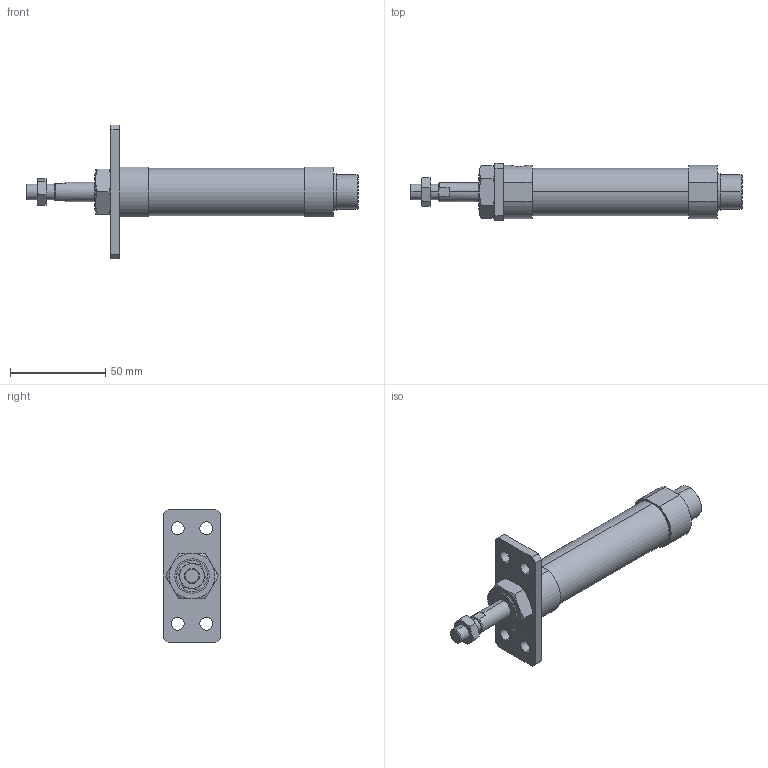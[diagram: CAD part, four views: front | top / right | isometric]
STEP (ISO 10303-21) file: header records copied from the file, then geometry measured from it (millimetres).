
FILE_DESCRIPTION (( 'STEP AP203' ), '1' );
FILE_NAME ('J#0-20-15-A.STEP', '2016-03-08T06:14:29', ( '' ), ( '' ), 'SwSTEP 2.0', 'SolidWorks 2014', '' );
FILE_SCHEMA (( 'CONFIG_CONTROL_DESIGN' ));
Length unit declared in the file: millimetre
Products named in the file (5): J#0-20-15; J#2-20-A; J#0-20-15-A
Assembly tree (4 placements, depth 2):
  J#0-20-15-A
    J#0-20-15
    (unnamed)
    (unnamed)
    J#2-20-A
Bounding box: 174 x 30 x 70 mm (x, y, z)
Volume: 76886.1 mm3; surface area: 20324.8 mm2
Topology: 4 solids, 4 shells, 109 faces, 246 edges, 154 vertices
Faces by surface type: plane 45, cylinder 34, torus 24, cone 6
Entity records: 3873 total; most frequent: CARTESIAN_POINT 906, DIRECTION 524, ORIENTED_EDGE 492, EDGE_CURVE 246, AXIS2_PLACEMENT_3D 216, VERTEX_POINT 154, EDGE_LOOP 132, ADVANCED_FACE 109
